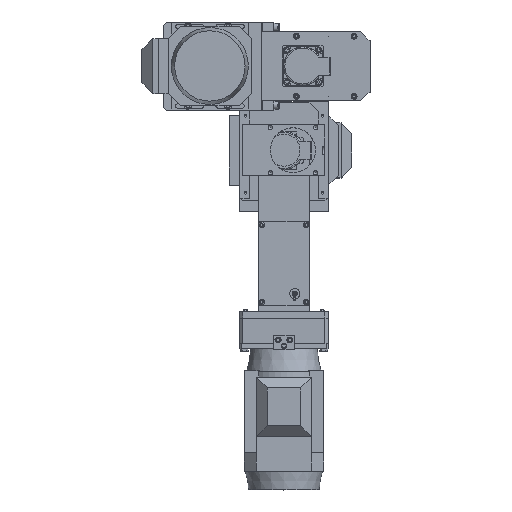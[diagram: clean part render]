
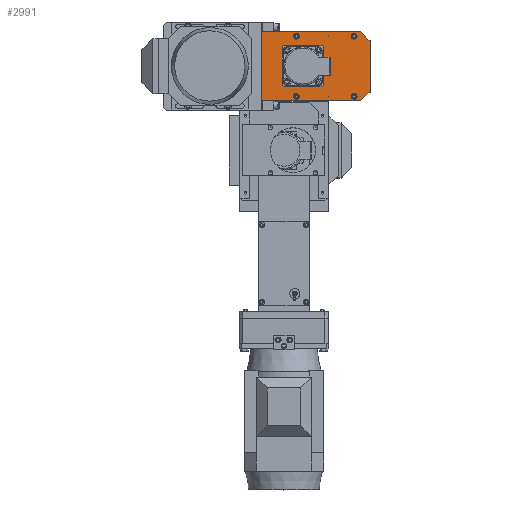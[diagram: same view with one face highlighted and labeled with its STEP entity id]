
A CAD part, top view. The second image highlights one B-rep face of the part: STEP entity #2991.
In plain terms, the highlighted planar face has unit normal (0, 0, 1).
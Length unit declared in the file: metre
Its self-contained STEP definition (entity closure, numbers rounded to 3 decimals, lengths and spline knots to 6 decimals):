
#2991 = ADVANCED_FACE( '', ( #4820, #4821, #4822, #4823, #4824, #4825, #4826, #4827, #4828, #4829 ), #4830, .T. );
#4820 = FACE_OUTER_BOUND( '', #7090, .T. );
#4821 = FACE_BOUND( '', #7091, .T. );
#4822 = FACE_BOUND( '', #7092, .T. );
#4823 = FACE_BOUND( '', #7093, .T. );
#4824 = FACE_BOUND( '', #7094, .T. );
#4825 = FACE_BOUND( '', #7095, .T. );
#4826 = FACE_BOUND( '', #7096, .T. );
#4827 = FACE_BOUND( '', #7097, .T. );
#4828 = FACE_BOUND( '', #7098, .T. );
#4829 = FACE_BOUND( '', #7099, .T. );
#4830 = PLANE( '', #7100 );
#7090 = EDGE_LOOP( '', ( #12437, #12438, #12439, #12440, #12441, #12442 ) );
#7091 = EDGE_LOOP( '', ( #12443 ) );
#7092 = EDGE_LOOP( '', ( #12444 ) );
#7093 = EDGE_LOOP( '', ( #12445 ) );
#7094 = EDGE_LOOP( '', ( #12446 ) );
#7095 = EDGE_LOOP( '', ( #12447 ) );
#7096 = EDGE_LOOP( '', ( #12448 ) );
#7097 = EDGE_LOOP( '', ( #12449 ) );
#7098 = EDGE_LOOP( '', ( #12450 ) );
#7099 = EDGE_LOOP( '', ( #12451 ) );
#7100 = AXIS2_PLACEMENT_3D( '', #12452, #12453, #12454 );
#12437 = ORIENTED_EDGE( '', *, *, #14487, .F. );
#12438 = ORIENTED_EDGE( '', *, *, #14522, .F. );
#12439 = ORIENTED_EDGE( '', *, *, #14527, .F. );
#12440 = ORIENTED_EDGE( '', *, *, #14517, .F. );
#12441 = ORIENTED_EDGE( '', *, *, #14515, .F. );
#12442 = ORIENTED_EDGE( '', *, *, #14497, .F. );
#12443 = ORIENTED_EDGE( '', *, *, #14528, .T. );
#12444 = ORIENTED_EDGE( '', *, *, #14529, .T. );
#12445 = ORIENTED_EDGE( '', *, *, #14530, .T. );
#12446 = ORIENTED_EDGE( '', *, *, #14531, .T. );
#12447 = ORIENTED_EDGE( '', *, *, #14532, .T. );
#12448 = ORIENTED_EDGE( '', *, *, #14533, .T. );
#12449 = ORIENTED_EDGE( '', *, *, #14496, .T. );
#12450 = ORIENTED_EDGE( '', *, *, #14534, .T. );
#12451 = ORIENTED_EDGE( '', *, *, #14535, .T. );
#12452 = CARTESIAN_POINT( '', ( 0., 0., 0.01 ) );
#12453 = DIRECTION( '', ( 0., 0., 1. ) );
#12454 = DIRECTION( '', ( 1., 0., 0. ) );
#14487 = EDGE_CURVE( '', #16888, #16889, #16890, .T. );
#14496 = EDGE_CURVE( '', #16906, #16906, #16907, .T. );
#14497 = EDGE_CURVE( '', #16889, #16908, #16909, .T. );
#14515 = EDGE_CURVE( '', #16908, #16942, #16943, .T. );
#14517 = EDGE_CURVE( '', #16942, #16945, #16946, .T. );
#14522 = EDGE_CURVE( '', #16950, #16888, #16952, .T. );
#14527 = EDGE_CURVE( '', #16945, #16950, #16957, .T. );
#14528 = EDGE_CURVE( '', #16958, #16958, #16959, .T. );
#14529 = EDGE_CURVE( '', #16960, #16960, #16961, .T. );
#14530 = EDGE_CURVE( '', #16962, #16962, #16963, .T. );
#14531 = EDGE_CURVE( '', #16964, #16964, #16965, .T. );
#14532 = EDGE_CURVE( '', #16966, #16966, #16967, .T. );
#14533 = EDGE_CURVE( '', #16968, #16968, #16969, .T. );
#14534 = EDGE_CURVE( '', #16970, #16970, #16971, .T. );
#14535 = EDGE_CURVE( '', #16972, #16972, #16973, .T. );
#16888 = VERTEX_POINT( '', #21028 );
#16889 = VERTEX_POINT( '', #21029 );
#16890 = LINE( '', #21030, #21031 );
#16906 = VERTEX_POINT( '', #21054 );
#16907 = CIRCLE( '', #21055, 0.00275 );
#16908 = VERTEX_POINT( '', #21056 );
#16909 = LINE( '', #21057, #21058 );
#16942 = VERTEX_POINT( '', #21097 );
#16943 = LINE( '', #21098, #21099 );
#16945 = VERTEX_POINT( '', #21102 );
#16946 = LINE( '', #21103, #21104 );
#16950 = VERTEX_POINT( '', #21111 );
#16952 = LINE( '', #21114, #21115 );
#16957 = LINE( '', #21120, #21121 );
#16958 = VERTEX_POINT( '', #21122 );
#16959 = CIRCLE( '', #21123, 0.00215 );
#16960 = VERTEX_POINT( '', #21124 );
#16961 = CIRCLE( '', #21125, 0.00215 );
#16962 = VERTEX_POINT( '', #21126 );
#16963 = CIRCLE( '', #21127, 0.00215 );
#16964 = VERTEX_POINT( '', #21128 );
#16965 = CIRCLE( '', #21129, 0.00215 );
#16966 = VERTEX_POINT( '', #21130 );
#16967 = CIRCLE( '', #21131, 0.03 );
#16968 = VERTEX_POINT( '', #21132 );
#16969 = CIRCLE( '', #21133, 0.00275 );
#16970 = VERTEX_POINT( '', #21134 );
#16971 = CIRCLE( '', #21135, 0.00275 );
#16972 = VERTEX_POINT( '', #21136 );
#16973 = CIRCLE( '', #21137, 0.00275 );
#21028 = CARTESIAN_POINT( '', ( 0.07, 0.054, 0.01 ) );
#21029 = CARTESIAN_POINT( '', ( 0.085, 0.039, 0.01 ) );
#21030 = CARTESIAN_POINT( '', ( 0.06975, 0.05425, 0.01 ) );
#21031 = VECTOR( '', #24184, 1. );
#21054 = CARTESIAN_POINT( '', ( -0.02725, -0.047, 0.01 ) );
#21055 = AXIS2_PLACEMENT_3D( '', #24195, #24196, #24197 );
#21056 = CARTESIAN_POINT( '', ( 0.085, -0.039, 0.01 ) );
#21057 = CARTESIAN_POINT( '', ( 0.085, -0.054, 0.01 ) );
#21058 = VECTOR( '', #24198, 1. );
#21097 = CARTESIAN_POINT( '', ( 0.07, -0.054, 0.01 ) );
#21098 = CARTESIAN_POINT( '', ( 0.06975, -0.05425, 0.01 ) );
#21099 = VECTOR( '', #24238, 1. );
#21102 = CARTESIAN_POINT( '', ( -0.085, -0.054, 0.01 ) );
#21103 = CARTESIAN_POINT( '', ( -0.085, -0.054, 0.01 ) );
#21104 = VECTOR( '', #24240, 1. );
#21111 = CARTESIAN_POINT( '', ( -0.085, 0.054, 0.01 ) );
#21114 = CARTESIAN_POINT( '', ( 0.085, 0.054, 0.01 ) );
#21115 = VECTOR( '', #24245, 1. );
#21120 = CARTESIAN_POINT( '', ( -0.085, 0.054, 0.01 ) );
#21121 = VECTOR( '', #24252, 1. );
#21122 = CARTESIAN_POINT( '', ( 0.004749, -0.022599, 0.01 ) );
#21123 = AXIS2_PLACEMENT_3D( '', #24253, #24254, #24255 );
#21124 = CARTESIAN_POINT( '', ( 0.002599, 0.024749, 0.01 ) );
#21125 = AXIS2_PLACEMENT_3D( '', #24256, #24257, #24258 );
#21126 = CARTESIAN_POINT( '', ( -0.044749, 0.022599, 0.01 ) );
#21127 = AXIS2_PLACEMENT_3D( '', #24259, #24260, #24261 );
#21128 = CARTESIAN_POINT( '', ( -0.042599, -0.024749, 0.01 ) );
#21129 = AXIS2_PLACEMENT_3D( '', #24262, #24263, #24264 );
#21130 = CARTESIAN_POINT( '', ( 0.01, 0., 0.01 ) );
#21131 = AXIS2_PLACEMENT_3D( '', #24265, #24266, #24267 );
#21132 = CARTESIAN_POINT( '', ( -0.02725, 0.047, 0.01 ) );
#21133 = AXIS2_PLACEMENT_3D( '', #24268, #24269, #24270 );
#21134 = CARTESIAN_POINT( '', ( 0.06275, 0.047, 0.01 ) );
#21135 = AXIS2_PLACEMENT_3D( '', #24271, #24272, #24273 );
#21136 = CARTESIAN_POINT( '', ( 0.06275, -0.047, 0.01 ) );
#21137 = AXIS2_PLACEMENT_3D( '', #24274, #24275, #24276 );
#24184 = DIRECTION( '', ( 0.707, -0.707, 0. ) );
#24195 = CARTESIAN_POINT( '', ( -0.03, -0.047, 0.01 ) );
#24196 = DIRECTION( '', ( 0., 0., -1. ) );
#24197 = DIRECTION( '', ( 1., 0., 0. ) );
#24198 = DIRECTION( '', ( 0., -1., 0. ) );
#24238 = DIRECTION( '', ( -0.707, -0.707, 0. ) );
#24240 = DIRECTION( '', ( -1., 0., 0. ) );
#24245 = DIRECTION( '', ( 1., 0., 0. ) );
#24252 = DIRECTION( '', ( 0., 1., 0. ) );
#24253 = CARTESIAN_POINT( '', ( 0.004749, -0.024749, 0.01 ) );
#24254 = DIRECTION( '', ( 0., 0., -1. ) );
#24255 = DIRECTION( '', ( 0., 1., 0. ) );
#24256 = CARTESIAN_POINT( '', ( 0.004749, 0.024749, 0.01 ) );
#24257 = DIRECTION( '', ( 0., 0., -1. ) );
#24258 = DIRECTION( '', ( -1., 0., 0. ) );
#24259 = CARTESIAN_POINT( '', ( -0.044749, 0.024749, 0.01 ) );
#24260 = DIRECTION( '', ( 0., 0., -1. ) );
#24261 = DIRECTION( '', ( 0., -1., 0. ) );
#24262 = CARTESIAN_POINT( '', ( -0.044749, -0.024749, 0.01 ) );
#24263 = DIRECTION( '', ( 0., 0., -1. ) );
#24264 = DIRECTION( '', ( 1., 0., 0. ) );
#24265 = CARTESIAN_POINT( '', ( -0.02, 0., 0.01 ) );
#24266 = DIRECTION( '', ( 0., 0., -1. ) );
#24267 = DIRECTION( '', ( 1., 0., 0. ) );
#24268 = CARTESIAN_POINT( '', ( -0.03, 0.047, 0.01 ) );
#24269 = DIRECTION( '', ( 0., 0., -1. ) );
#24270 = DIRECTION( '', ( 1., 0., 0. ) );
#24271 = CARTESIAN_POINT( '', ( 0.06, 0.047, 0.01 ) );
#24272 = DIRECTION( '', ( 0., 0., -1. ) );
#24273 = DIRECTION( '', ( 1., 0., 0. ) );
#24274 = CARTESIAN_POINT( '', ( 0.06, -0.047, 0.01 ) );
#24275 = DIRECTION( '', ( 0., 0., -1. ) );
#24276 = DIRECTION( '', ( 1., 0., 0. ) );
